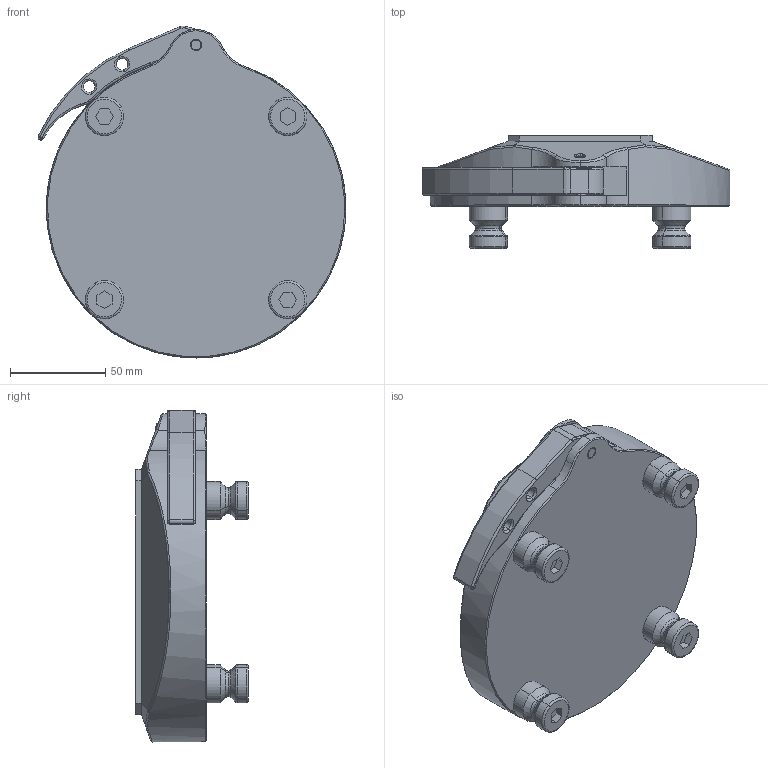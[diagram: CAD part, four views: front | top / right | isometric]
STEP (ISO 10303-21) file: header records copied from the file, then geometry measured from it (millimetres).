
FILE_DESCRIPTION (( 'STEP AP203' ), '1' );
FILE_NAME ('66500.STEP', '2017-05-31T09:07:31', ( '' ), ( '' ), 'SwSTEP 2.0', 'SolidWorks 2015', '' );
FILE_SCHEMA (( 'CONFIG_CONTROL_DESIGN' ));
Length unit declared in the file: millimetre
Products named in the file (1): 66500
Bounding box: 161.29 x 59 x 173.91 mm (x, y, z)
Volume: 602180.6 mm3; surface area: 93574.5 mm2
Topology: 12 solids, 12 shells, 407 faces, 921 edges, 547 vertices
Faces by surface type: cylinder 122, torus 106, plane 104, cone 57, bspline 16, sphere 2
Entity records: 12013 total; most frequent: CARTESIAN_POINT 2705, DIRECTION 2113, ORIENTED_EDGE 1826, EDGE_CURVE 913, AXIS2_PLACEMENT_3D 880, VERTEX_POINT 547, CIRCLE 488, EDGE_LOOP 442
